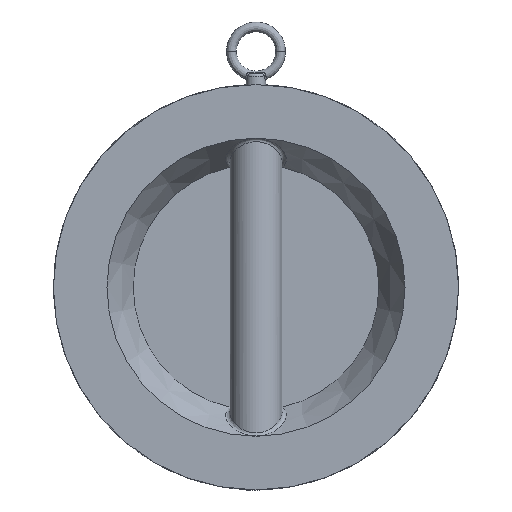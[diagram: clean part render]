
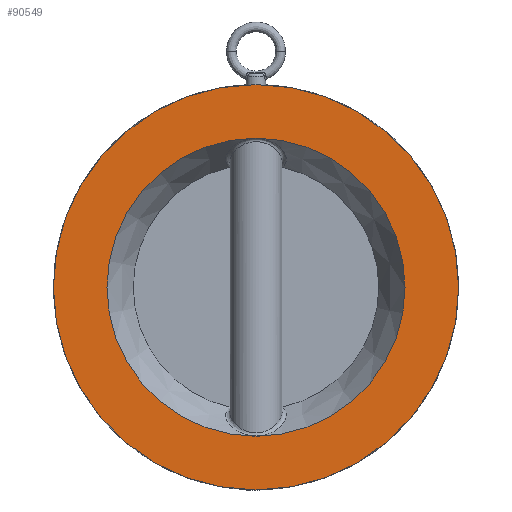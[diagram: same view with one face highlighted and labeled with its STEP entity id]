
A CAD part, front view. The second image highlights one B-rep face of the part: STEP entity #90549.
In plain terms, the highlighted planar face has unit normal (0, -1, 0).
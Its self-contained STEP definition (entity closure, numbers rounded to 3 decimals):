
#3523 = DIRECTION ( 'NONE',  ( 0., -1., 0. ) ) ;
#4683 = CARTESIAN_POINT ( 'NONE',  ( 0., 0., -165. ) ) ;
#6989 = DIRECTION ( 'NONE',  ( 0., 0., -1. ) ) ;
#12445 = FACE_BOUND ( 'NONE', #49047, .T. ) ;
#16847 = CARTESIAN_POINT ( 'NONE',  ( 0., 0., 0. ) ) ;
#17890 = VERTEX_POINT ( 'NONE', #96746 ) ;
#20409 = ORIENTED_EDGE ( 'NONE', *, *, #54488, .F. ) ;
#23428 = EDGE_LOOP ( 'NONE', ( #85755, #111997 ) ) ;
#25701 = DIRECTION ( 'NONE',  ( 0., 0., -1. ) ) ;
#27232 = CARTESIAN_POINT ( 'NONE',  ( 0., 0., 165. ) ) ;
#34828 = EDGE_CURVE ( 'NONE', #17890, #43954, #79678, .T. ) ;
#36818 = EDGE_CURVE ( 'NONE', #80107, #97789, #109792, .T. ) ;
#43954 = VERTEX_POINT ( 'NONE', #93874 ) ;
#49047 = EDGE_LOOP ( 'NONE', ( #62880, #20409 ) ) ;
#52040 = CARTESIAN_POINT ( 'NONE',  ( 0., 0., 0. ) ) ;
#52574 = DIRECTION ( 'NONE',  ( 0., 0., -1. ) ) ;
#54488 = EDGE_CURVE ( 'NONE', #43954, #17890, #76555, .T. ) ;
#56176 = CARTESIAN_POINT ( 'NONE',  ( 0., 0., 0. ) ) ;
#56984 = AXIS2_PLACEMENT_3D ( 'NONE', #16847, #78325, #25701 ) ;
#59638 = DIRECTION ( 'NONE',  ( 0., -1., 0. ) ) ;
#60864 = DIRECTION ( 'NONE',  ( 0., 0., -1. ) ) ;
#62437 = EDGE_CURVE ( 'NONE', #97789, #80107, #80541, .T. ) ;
#62880 = ORIENTED_EDGE ( 'NONE', *, *, #34828, .F. ) ;
#65034 = DIRECTION ( 'NONE',  ( 0., 0., -1. ) ) ;
#69641 = AXIS2_PLACEMENT_3D ( 'NONE', #112273, #59638, #6989 ) ;
#76555 = CIRCLE ( 'NONE', #109170, 121.362 ) ;
#78325 = DIRECTION ( 'NONE',  ( 0., -1., 0. ) ) ;
#79678 = CIRCLE ( 'NONE', #69641, 121.362 ) ;
#80107 = VERTEX_POINT ( 'NONE', #27232 ) ;
#80541 = CIRCLE ( 'NONE', #56984, 165. ) ;
#85089 = AXIS2_PLACEMENT_3D ( 'NONE', #56176, #3523, #65034 ) ;
#85755 = ORIENTED_EDGE ( 'NONE', *, *, #62437, .T. ) ;
#86767 = CARTESIAN_POINT ( 'NONE',  ( 0., 0., 0. ) ) ;
#90549 = ADVANCED_FACE ( 'NONE', ( #12445, #100441 ), #104814, .T. ) ;
#93874 = CARTESIAN_POINT ( 'NONE',  ( 0., 0., 121.362 ) ) ;
#96746 = CARTESIAN_POINT ( 'NONE',  ( 0., 0., -121.362 ) ) ;
#97789 = VERTEX_POINT ( 'NONE', #4683 ) ;
#100441 = FACE_OUTER_BOUND ( 'NONE', #23428, .T. ) ;
#104814 = PLANE ( 'NONE',  #108906 ) ;
#105201 = DIRECTION ( 'NONE',  ( 0., -1., 0. ) ) ;
#108906 = AXIS2_PLACEMENT_3D ( 'NONE', #86767, #105201, #52574 ) ;
#109170 = AXIS2_PLACEMENT_3D ( 'NONE', #52040, #113505, #60864 ) ;
#109792 = CIRCLE ( 'NONE', #85089, 165. ) ;
#111997 = ORIENTED_EDGE ( 'NONE', *, *, #36818, .T. ) ;
#112273 = CARTESIAN_POINT ( 'NONE',  ( 0., 0., 0. ) ) ;
#113505 = DIRECTION ( 'NONE',  ( 0., -1., 0. ) ) ;
